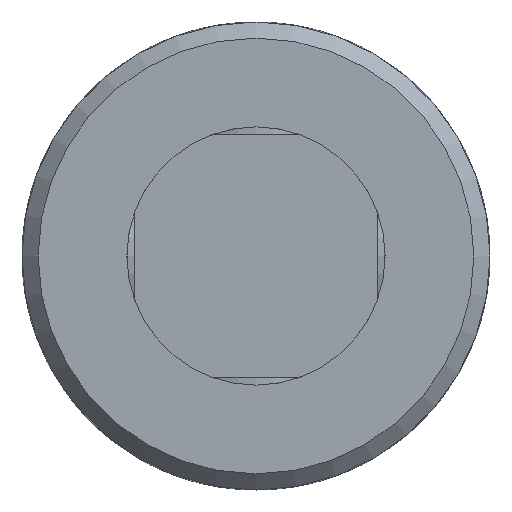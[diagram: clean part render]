
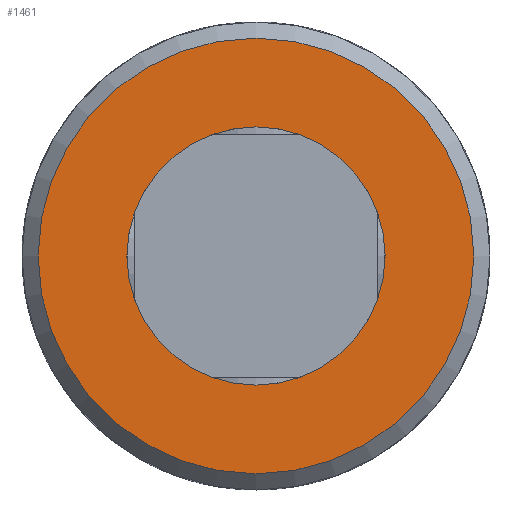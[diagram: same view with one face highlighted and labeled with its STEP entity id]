
A CAD part, front view. The second image highlights one B-rep face of the part: STEP entity #1461.
In plain terms, the highlighted planar face has unit normal (0, -1, 0).
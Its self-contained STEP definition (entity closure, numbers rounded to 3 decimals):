
#200=PLANE('',#1608);
#332=FACE_BOUND('',#536,.T.);
#408=FACE_OUTER_BOUND('',#535,.T.);
#535=EDGE_LOOP('',(#1278));
#536=EDGE_LOOP('',(#1279));
#617=CIRCLE('',#1606,27.);
#618=CIRCLE('',#1609,16.);
#743=VERTEX_POINT('',#2879);
#760=VERTEX_POINT('',#3089);
#926=EDGE_CURVE('',#743,#743,#617,.T.);
#943=EDGE_CURVE('',#760,#760,#618,.T.);
#1278=ORIENTED_EDGE('',*,*,#926,.F.);
#1279=ORIENTED_EDGE('',*,*,#943,.T.);
#1461=ADVANCED_FACE('',(#408,#332),#200,.F.);
#1606=AXIS2_PLACEMENT_3D('',#2880,#1928,#1929);
#1608=AXIS2_PLACEMENT_3D('',#3088,#1936,#1937);
#1609=AXIS2_PLACEMENT_3D('',#3090,#1938,#1939);
#1928=DIRECTION('center_axis',(0.,1.,0.));
#1929=DIRECTION('ref_axis',(1.,0.,0.));
#1936=DIRECTION('center_axis',(0.,1.,0.));
#1937=DIRECTION('ref_axis',(0.,0.,1.));
#1938=DIRECTION('center_axis',(0.,1.,0.));
#1939=DIRECTION('ref_axis',(-1.,0.,0.));
#2879=CARTESIAN_POINT('',(-27.,-79.5,0.));
#2880=CARTESIAN_POINT('Origin',(0.,-79.5,0.));
#3088=CARTESIAN_POINT('Origin',(0.,-79.5,0.));
#3089=CARTESIAN_POINT('',(16.,-79.5,0.));
#3090=CARTESIAN_POINT('Origin',(0.,-79.5,0.));
